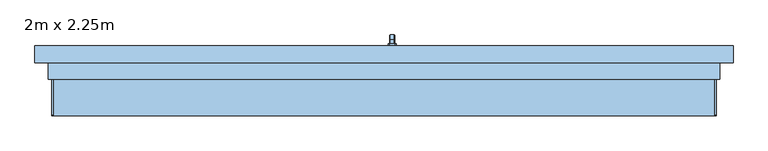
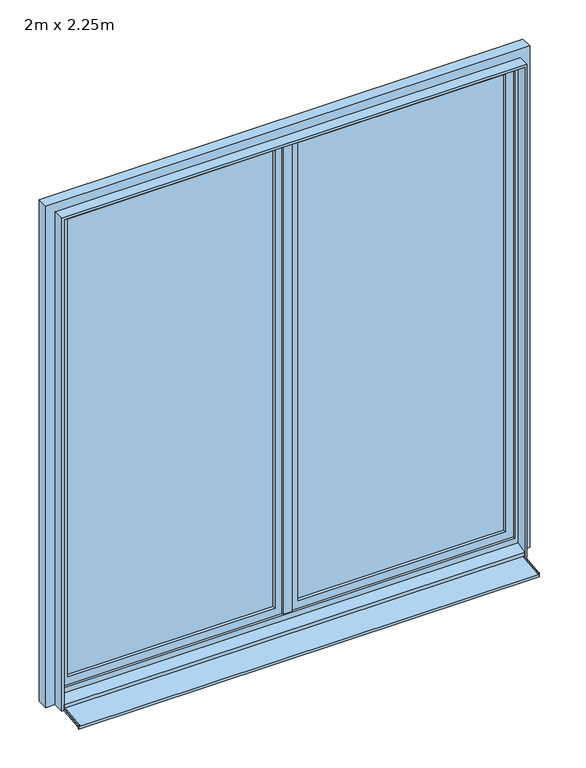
"""IFC4 building model written with IfcOpenShell, lengths in millimetres: window geometry, PF 2 Vantaux - Droits : 2m x 2.25m."""

from ifc_helpers import new_model, si_unit, point, frame, frame_2d, origin, place, context, project, spatial, polyline, circle_curve, trimmed, segment, composite_curve, outline, extrude, faceted_brep, source, transform, mapped, element, save


def window_2m_x_2_25m_73eb5746(model_context):
    return source(origin(), model_context, "Body", "SolidModel", [
        faceted_brep([(30.6460097, 106.0, 1122.0339292), (19.3539903, 106.0, 1122.0339292), (17.9660708, 106.0, 1120.6460097), (17.9660708, 106.0, 1109.3323012), (19.3323012, 106.0, 1107.9660708), (30.6676988, 106.0, 1107.9660708), (32.0339292, 106.0, 1109.3323012), (32.0339292, 106.0, 1120.6460097), (32.0339292, 118.3386538, 1120.6460097), (30.6460097, 118.9135489, 1122.0339292), (32.0339292, 113.6523623, 1109.3323012), (32.0339292, 120.3323012, 1102.6523623), (32.0339292, 120.3323012, 1020.0), (32.0339292, 131.6460097, 1020.0), (32.0339292, 131.6460097, 1107.3386538), (30.6676988, 113.0864511, 1107.9660708), (19.3323012, 113.0864511, 1107.9660708), (17.9660708, 113.6523623, 1109.3323012), (17.9660708, 118.3386538, 1120.6460097), (17.9660708, 131.6460097, 1107.3386538), (17.9660708, 131.6460097, 1020.0), (17.9660708, 120.3323012, 1020.0), (17.9660708, 120.3323012, 1102.6523623), (19.3539903, 118.9135489, 1122.0339292), (30.6460097, 133.0339292, 1107.9135489), (30.6676988, 118.9660708, 1102.0864511), (19.3323012, 118.9660708, 1102.0864511), (19.3539903, 133.0339292, 1107.9135489), (30.6460097, 133.0339292, 1020.0), (30.6676988, 118.9660708, 1020.0), (19.3323012, 118.9660708, 1020.0), (19.3539903, 133.0339292, 1020.0)], [[[0, 1, 2, 3, 4, 5, 6, 7]], [[7, 8, 9, 0]], [[6, 10, 11, 12, 13, 14, 8, 7]], [[5, 15, 10, 6]], [[4, 16, 15, 5]], [[3, 17, 16, 4]], [[2, 18, 19, 20, 21, 22, 17, 3]], [[1, 23, 18, 2]], [[0, 9, 23, 1]], [[8, 14, 24, 9]], [[15, 25, 11, 10]], [[16, 26, 25, 15]], [[17, 22, 26, 16]], [[23, 27, 19, 18]], [[9, 24, 27, 23]], [[28, 13, 12, 29, 30, 21, 20, 31]], [[14, 13, 28, 24]], [[25, 29, 12, 11]], [[26, 30, 29, 25]], [[22, 21, 30, 26]], [[27, 31, 20, 19]], [[24, 28, 31, 27]]]),
        extrude(outline(polyline([(1140.0, 32.0), (1140.0, 18.0), (1135.0, 13.0), (1065.0, 13.0), (1060.0, 18.0), (1060.0, 32.0), (1065.0, 37.0), (1135.0, 37.0), (1140.0, 32.0)])), frame((0.0, 100.0, 0.0), z_axis=(0.0, 1.0, 0.0), x_axis=(0.0, 0.0, 1.0)), (0.0, 0.0, 1.0), 6.0),
        extrude(outline(polyline([(-110.0288776, 26.588626), (15.0, 39.7296906), (15.0, 50.0), (20.0, 50.0), (20.0, 35.0), (-105.0288776, 21.8589354), (-105.0288776, 16.0359447), (-110.0288776, 15.5104235), (-110.0288776, 26.588626)])), frame((-1000.0, 0.0, 0.0), z_axis=(1.0, 0.0, 0.0), x_axis=(0.0, 1.0, 0.0)), (0.0, 0.0, 1.0), 2000.0),
        extrude(outline(composite_curve([segment(polyline([(-110.0288776, 26.588626), (-110.0288776, 28.0145512)]), True, "CONTINUOUS"), segment(trimmed(circle_curve(frame_2d((-106.0288776, 28.0145512)), 4.0), [point((-110.0288776, 28.0145512))], [point((-106.4469915, 31.9926388))], False, "CARTESIAN"), True, "CONTINUOUS"), segment(polyline([(-106.4469915, 31.9926388), (15.0, 44.757232), (15.0, 39.7296906), (-110.0288776, 26.588626)]), True, "CONTINUOUS")], self_intersect=False)), frame((-1000.0, 0.0, 0.0), z_axis=(1.0, 0.0, 0.0), x_axis=(0.0, 1.0, 0.0)), (0.0, 0.0, 1.0), 5.0),
        extrude(outline(composite_curve([segment(polyline([(-110.0288776, 26.588626), (-110.0288776, 28.0145512)]), True, "CONTINUOUS"), segment(trimmed(circle_curve(frame_2d((-106.0288776, 28.0145512)), 4.0), [point((-110.0288776, 28.0145512))], [point((-106.4469915, 31.9926388))], False, "CARTESIAN"), True, "CONTINUOUS"), segment(polyline([(-106.4469915, 31.9926388), (15.0, 44.757232), (15.0, 39.7296906), (-110.0288776, 26.588626)]), True, "CONTINUOUS")], self_intersect=False)), frame((995.0, 0.0, 0.0), z_axis=(1.0, 0.0, 0.0), x_axis=(0.0, 1.0, 0.0)), (0.0, 0.0, 1.0), 5.0),
        extrude(outline(polyline([(85.0, -1000.0), (85.0, 0.0), (2285.0, 0.0), (2285.0, -1000.0), (85.0, -1000.0)]), holes=[polyline([(135.0, -50.0), (135.0, -950.0), (2235.0, -950.0), (2235.0, -50.0), (135.0, -50.0)])]), frame((0.0, 60.0, 0.0), z_axis=(0.0, 1.0, 0.0), x_axis=(0.0, 0.0, 1.0)), (0.0, 0.0, 1.0), 40.0),
        extrude(outline(polyline([(50.0, 74.0), (50.0, 86.0), (950.0, 86.0), (950.0, 74.0), (50.0, 74.0)])), frame((0.0, 0.0, 135.0), z_axis=(0.0, 0.0, 1.0), x_axis=(1.0, 0.0, 0.0)), (0.0, 0.0, 1.0), 2100.0),
        extrude(outline(polyline([(-950.0, 74.0), (-950.0, 86.0), (-50.0, 86.0), (-50.0, 74.0), (-950.0, 74.0)])), frame((0.0, 0.0, 135.0), z_axis=(0.0, 0.0, 1.0), x_axis=(1.0, 0.0, 0.0)), (0.0, 0.0, 1.0), 2100.0),
        extrude(outline(polyline([(85.0, 0.0), (85.0, 1000.0), (2285.0, 1000.0), (2285.0, 0.0), (85.0, 0.0)]), holes=[polyline([(135.0, 950.0), (135.0, 50.0), (2235.0, 50.0), (2235.0, 950.0), (135.0, 950.0)])]), frame((0.0, 60.0, 0.0), z_axis=(0.0, 1.0, 0.0), x_axis=(0.0, 0.0, 1.0)), (0.0, 0.0, 1.0), 40.0),
        extrude(outline(polyline([(35.0, -1000.0), (2285.0, -1000.0), (2285.0, 1000.0), (35.0, 1000.0), (35.0, 1010.0), (2295.0, 1010.0), (2295.0, -1010.0), (35.0, -1010.0), (35.0, -1000.0)])), frame((0.0, 0.0, 0.0), z_axis=(0.0, 1.0, 0.0), x_axis=(0.0, 0.0, 1.0)), (0.0, 0.0, 1.0), 50.0),
        faceted_brep([(-1050.0, 100.0, 35.0), (1050.0, 100.0, 35.0), (1050.0, 50.0, 35.0), (1000.0, 50.0, 35.0), (1000.0, 20.0, 35.0), (-1000.0, 20.0, 35.0), (-1000.0, 50.0, 35.0), (-1050.0, 50.0, 35.0), (-1050.0, 50.0, 2335.0), (-1050.0, 100.0, 2335.0), (-1000.0, 50.0, 74.3761425), (1000.0, 50.0, 74.3761425), (1050.0, 50.0, 2335.0), (-985.0, 50.0, 2270.0), (985.0, 50.0, 2270.0), (985.0, 50.0, 100.0), (-985.0, 50.0, 100.0), (-1000.0, 20.0, 50.0), (-1000.0, 10.0, 50.0), (-1000.0, 10.0, 45.0), (-1000.0, 0.0, 45.0), (-1000.0, 0.0, 60.9786829), (1000.0, 20.0, 50.0), (1000.0, 0.0, 60.9786829), (1000.0, 0.0, 45.0), (1000.0, 10.0, 45.0), (1000.0, 10.0, 50.0), (1050.0, 100.0, 2335.0), (1000.0, 100.0, 2285.0), (-1000.0, 100.0, 2285.0), (-1000.0, 100.0, 85.0), (1000.0, 100.0, 85.0), (-985.0, 60.0, 100.0), (-985.0, 60.0, 2270.0), (985.0, 60.0, 100.0), (985.0, 60.0, 2270.0), (1000.0, 60.0, 2285.0), (1000.0, 60.0, 85.0), (-1000.0, 60.0, 85.0), (-1000.0, 60.0, 2285.0)], [[[0, 1, 2, 3, 4, 5, 6, 7]], [[7, 8, 9, 0]], [[7, 6, 10, 11, 3, 2, 12, 8], [13, 14, 15, 16]], [[10, 6, 5, 17, 18, 19, 20, 21]], [[5, 4, 22, 17]], [[4, 3, 11, 23, 24, 25, 26, 22]], [[2, 1, 27, 12]], [[0, 9, 27, 1], [28, 29, 30, 31]], [[13, 16, 32, 33]], [[32, 16, 15, 34]], [[35, 34, 15, 14]], [[21, 23, 11, 10]], [[36, 37, 38, 39], [33, 32, 34, 35]], [[38, 30, 29, 39]], [[30, 38, 37, 31]], [[28, 31, 37, 36]], [[20, 24, 23, 21]], [[19, 25, 24, 20]], [[18, 26, 25, 19]], [[17, 22, 26, 18]], [[13, 33, 35, 14]], [[12, 27, 9, 8]], [[39, 29, 28, 36]]]),
        extrude(outline(polyline([(20.0, 52.0), (-20.0, 52.0), (-20.0, 60.0), (20.0, 60.0), (20.0, 52.0)])), frame((0.0, 0.0, 100.0), z_axis=(0.0, 0.0, 1.0), x_axis=(1.0, 0.0, 0.0)), (0.0, 0.0, 1.0), 2170.0),
    ])


if __name__ == "__main__":
    model = new_model("IFC4")
    model_context = context("Model", 3, world=origin())
    ifc_project = project(units=[si_unit("LENGTHUNIT", "METRE", prefix="MILLI")], contexts=[model_context])
    site = spatial("IfcSite", under=ifc_project)
    building = spatial("IfcBuilding", under=site)
    placement = place(None, origin())
    window_2m_x_2_25m_shape = window_2m_x_2_25m_73eb5746(model_context)
    element("IfcWindow", 1, ObjectType="PF 2 Vantaux - Droits : 2m x 2.25m", at=placement, inside=building, context=model_context, shape_type="MappedRepresentation", body=[
        mapped(window_2m_x_2_25m_shape, transform((0.0, 0.0, 0.0), x_axis=(1.0, 0.0, 0.0), y_axis=(0.0, 1.0, 0.0), z_axis=(0.0, 0.0, 1.0))),
    ])
    save(model, "model.ifc")
